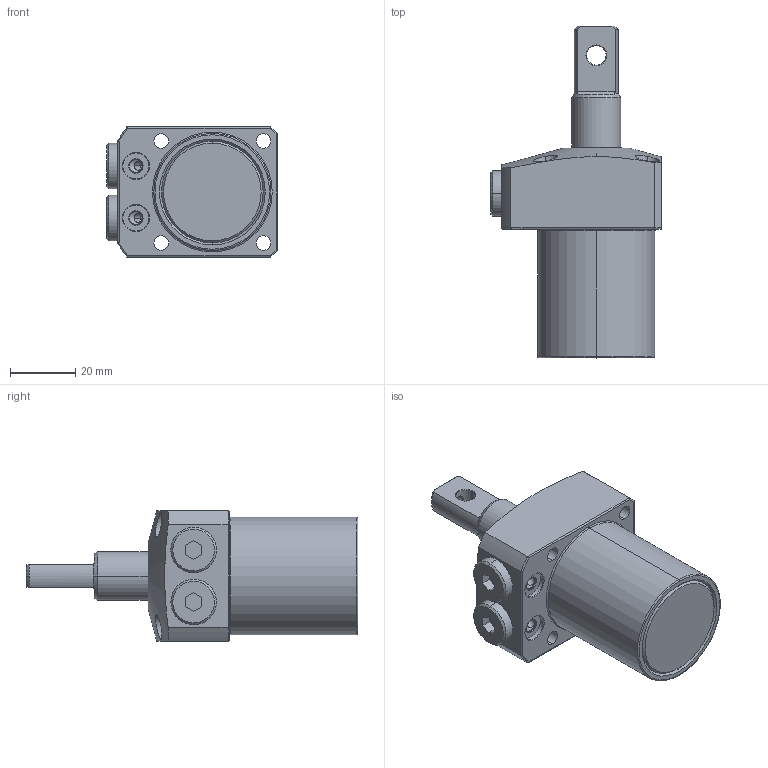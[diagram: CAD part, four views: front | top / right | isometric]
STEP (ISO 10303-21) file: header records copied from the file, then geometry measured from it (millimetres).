
FILE_DESCRIPTION(/* description */ (''),/* implementation_level */ '2;1');
FILE_NAME(/* name */ 'KTRC36-P.stp',/* time_stamp */ '2022-11-17T15:31:29+08:00',/* author */ (''),/* organization */ (''),/* preprocessor_version */ 'ST-DEVELOPER v16.7',/* originating_system */ 'SIEMENS PLM Software NX 12.0',/* authorisation */ '');
FILE_SCHEMA (('AP203_CONFIGURATION_CONTROLLED_3D_DESIGN_OF_MECHANICAL_PARTS_AND_ASSEMBLIES_MIM_LF { 1 0 10303 403 2 1 2}'));
Length unit declared in the file: millimetre
Products named in the file (4): KTRC36-P-02; KTRC36-P-03; KTRC36-P-01; LHA0360-Cx-P_rev1_step
Assembly tree (4 placements, depth 2):
  LHA0360-Cx-P_rev1_step
    KTRC36-P-01
    KTRC36-P-03  x2
    KTRC36-P-02
Bounding box: 52.5 x 102 x 40 mm (x, y, z)
Volume: 86822.9 mm3; surface area: 17720.7 mm2
Topology: 4 solids, 4 shells, 160 faces, 377 edges, 237 vertices
Faces by surface type: cylinder 65, plane 48, cone 37, torus 10
Entity records: 5403 total; most frequent: CARTESIAN_POINT 1497, DIRECTION 746, ORIENTED_EDGE 698, EDGE_CURVE 349, AXIS2_PLACEMENT_3D 307, VERTEX_POINT 219, EDGE_LOOP 174, CIRCLE 155
